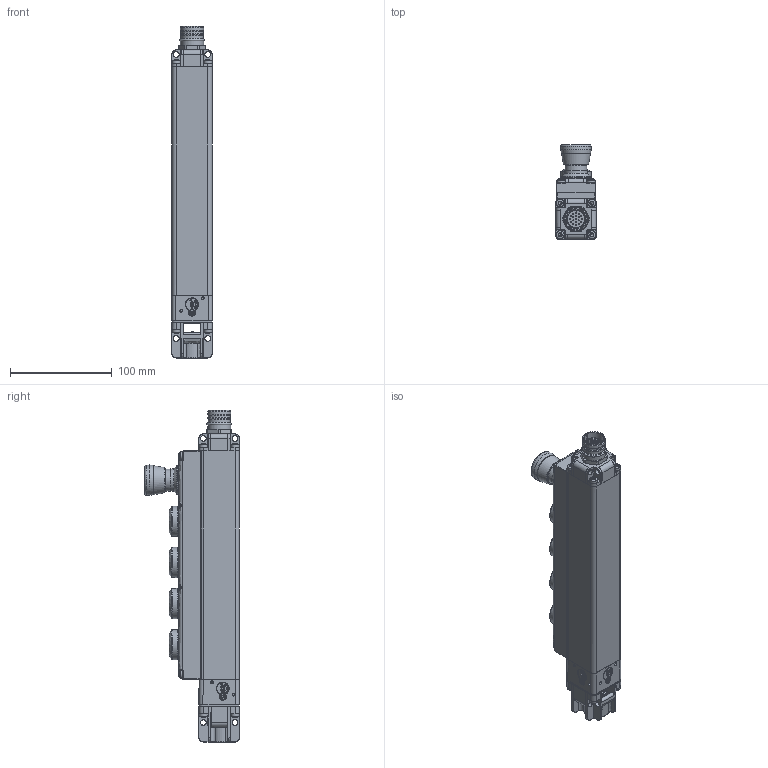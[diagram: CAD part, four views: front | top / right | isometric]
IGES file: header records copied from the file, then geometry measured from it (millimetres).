
Global section: file name: 2037999_A_PSENmg1-B-xxxxx-Fxxx-Ux-U; native system: Autodesk Inventor 2024; preprocessor: unknown; author: prim; date: 20250811.074439; units: millimetre
Bounding box: 40 x 93.5 x 326.9 mm (x, y, z)
Volume: 657527.7 mm3; surface area: 87748.8 mm2
Topology: 1 solids, 1 shells, 2032 faces, 5249 edges, 3260 vertices
Faces by surface type: bspline 2032
